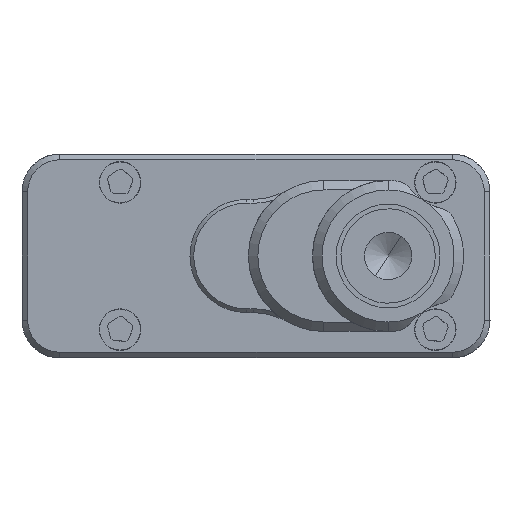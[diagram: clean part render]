
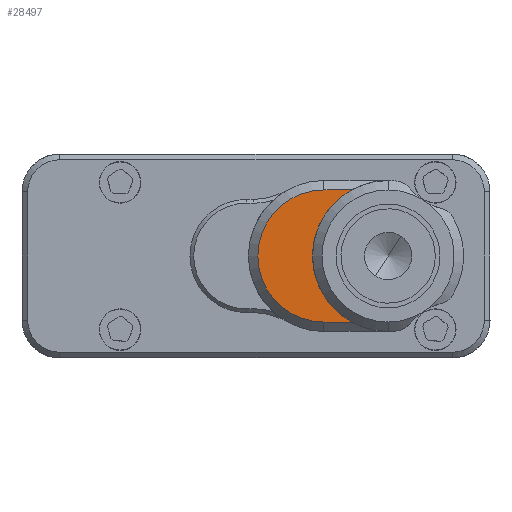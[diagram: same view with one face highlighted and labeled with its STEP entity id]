
A CAD part, front view. The second image highlights one B-rep face of the part: STEP entity #28497.
In plain terms, the highlighted planar face has unit normal (0, -1, 0).
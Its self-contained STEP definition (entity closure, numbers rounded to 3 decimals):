
#584 = ORIENTED_EDGE ( 'NONE', *, *, #56296, .T. ) ;
#6620 = VERTEX_POINT ( 'NONE', #31585 ) ;
#7346 = CARTESIAN_POINT ( 'NONE',  ( 7., -27.6, -3.5 ) ) ;
#7352 = CARTESIAN_POINT ( 'NONE',  ( 5.064, -27.6, 3.5 ) ) ;
#8252 = CARTESIAN_POINT ( 'NONE',  ( 7., -27.6, 3.5 ) ) ;
#8624 = LINE ( 'NONE', #7346, #20904 ) ;
#8866 = DIRECTION ( 'NONE',  ( 0., 0., 1. ) ) ;
#10196 = EDGE_CURVE ( 'NONE', #6620, #16949, #8624, .T. ) ;
#10537 = CARTESIAN_POINT ( 'NONE',  ( 7., -27.6, 0. ) ) ;
#12501 = LINE ( 'NONE', #8252, #44129 ) ;
#13713 = AXIS2_PLACEMENT_3D ( 'NONE', #10537, #30306, #30658 ) ;
#15529 = CARTESIAN_POINT ( 'NONE',  ( 5.064, -27.6, -3.5 ) ) ;
#15944 = EDGE_LOOP ( 'NONE', ( #584, #54896, #51709, #35064 ) ) ;
#16949 = VERTEX_POINT ( 'NONE', #15529 ) ;
#18123 = CIRCLE ( 'NONE', #34698, 4. ) ;
#20904 = VECTOR ( 'NONE', #57676, 1000. ) ;
#22408 = CARTESIAN_POINT ( 'NONE',  ( 7., -27.6, 0. ) ) ;
#27547 = CIRCLE ( 'NONE', #35888, 3.5 ) ;
#28331 = VERTEX_POINT ( 'NONE', #7352 ) ;
#28497 = ADVANCED_FACE ( 'NONE', ( #38812 ), #55012, .T. ) ;
#30306 = DIRECTION ( 'NONE',  ( 0., -1., 0. ) ) ;
#30421 = VERTEX_POINT ( 'NONE', #42549 ) ;
#30658 = DIRECTION ( 'NONE',  ( 0., 0., -1. ) ) ;
#31585 = CARTESIAN_POINT ( 'NONE',  ( 3.6, -27.6, -3.5 ) ) ;
#31638 = DIRECTION ( 'NONE',  ( -1., 0., 0. ) ) ;
#34698 = AXIS2_PLACEMENT_3D ( 'NONE', #22408, #40926, #61060 ) ;
#35064 = ORIENTED_EDGE ( 'NONE', *, *, #55643, .F. ) ;
#35888 = AXIS2_PLACEMENT_3D ( 'NONE', #63083, #43264, #8866 ) ;
#36783 = EDGE_CURVE ( 'NONE', #6620, #30421, #27547, .T. ) ;
#38812 = FACE_OUTER_BOUND ( 'NONE', #15944, .T. ) ;
#40926 = DIRECTION ( 'NONE',  ( 0., -1., 0. ) ) ;
#42549 = CARTESIAN_POINT ( 'NONE',  ( 3.6, -27.6, 3.5 ) ) ;
#43264 = DIRECTION ( 'NONE',  ( 0., 1., 0. ) ) ;
#44129 = VECTOR ( 'NONE', #31638, 1000. ) ;
#51709 = ORIENTED_EDGE ( 'NONE', *, *, #10196, .T. ) ;
#54896 = ORIENTED_EDGE ( 'NONE', *, *, #36783, .F. ) ;
#55012 = PLANE ( 'NONE',  #13713 ) ;
#55643 = EDGE_CURVE ( 'NONE', #28331, #16949, #18123, .T. ) ;
#56296 = EDGE_CURVE ( 'NONE', #28331, #30421, #12501, .T. ) ;
#57676 = DIRECTION ( 'NONE',  ( 1., 0., 0. ) ) ;
#61060 = DIRECTION ( 'NONE',  ( 0., 0., -1. ) ) ;
#63083 = CARTESIAN_POINT ( 'NONE',  ( 3.6, -27.6, 0. ) ) ;
